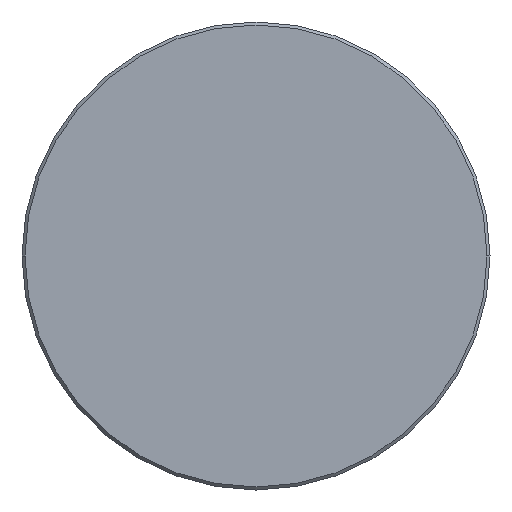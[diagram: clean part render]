
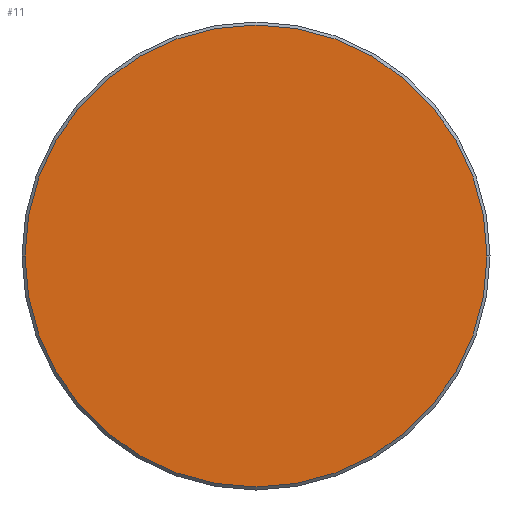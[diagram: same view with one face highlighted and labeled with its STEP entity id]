
A CAD part, left-side view. The second image highlights one B-rep face of the part: STEP entity #11.
In plain terms, the highlighted planar face has unit normal (-1, 0, 0).
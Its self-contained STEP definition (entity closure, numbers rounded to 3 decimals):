
#11 = ADVANCED_FACE ( 'NONE', ( #1336 ), #1335, .T. ) ;
#57 = EDGE_CURVE ( 'NONE', #1269, #1477, #442, .T. ) ;
#73 = EDGE_CURVE ( 'NONE', #1477, #1269, #419, .T. ) ;
#224 = CARTESIAN_POINT ( 'NONE',  ( -72., -15.3, 0. ) ) ;
#268 = CARTESIAN_POINT ( 'NONE',  ( -72., 15.3, 0. ) ) ;
#419 = CIRCLE ( 'NONE', #420, 15.3 ) ;
#420 = AXIS2_PLACEMENT_3D ( 'NONE', #1011, #1009, #1008 ) ;
#439 = AXIS2_PLACEMENT_3D ( 'NONE', #1085, #1084, #1081 ) ;
#442 = CIRCLE ( 'NONE', #439, 15.3 ) ;
#563 = AXIS2_PLACEMENT_3D ( 'NONE', #1359, #1333, #1330 ) ;
#807 = ORIENTED_EDGE ( 'NONE', *, *, #73, .T. ) ;
#809 = ORIENTED_EDGE ( 'NONE', *, *, #57, .T. ) ;
#1008 = DIRECTION ( 'NONE',  ( 0., -1., 0. ) ) ;
#1009 = DIRECTION ( 'NONE',  ( -1., 0., 0. ) ) ;
#1011 = CARTESIAN_POINT ( 'NONE',  ( -72., 0., 0. ) ) ;
#1081 = DIRECTION ( 'NONE',  ( 0., -1., 0. ) ) ;
#1084 = DIRECTION ( 'NONE',  ( -1., 0., 0. ) ) ;
#1085 = CARTESIAN_POINT ( 'NONE',  ( -72., 0., 0. ) ) ;
#1269 = VERTEX_POINT ( 'NONE', #224 ) ;
#1330 = DIRECTION ( 'NONE',  ( 0., -1., 0. ) ) ;
#1333 = DIRECTION ( 'NONE',  ( -1., 0., 0. ) ) ;
#1335 = PLANE ( 'NONE',  #563 ) ;
#1336 = FACE_OUTER_BOUND ( 'NONE', #1465, .T. ) ;
#1359 = CARTESIAN_POINT ( 'NONE',  ( -72., 0., 0. ) ) ;
#1465 = EDGE_LOOP ( 'NONE', ( #807, #809 ) ) ;
#1477 = VERTEX_POINT ( 'NONE', #268 ) ;
